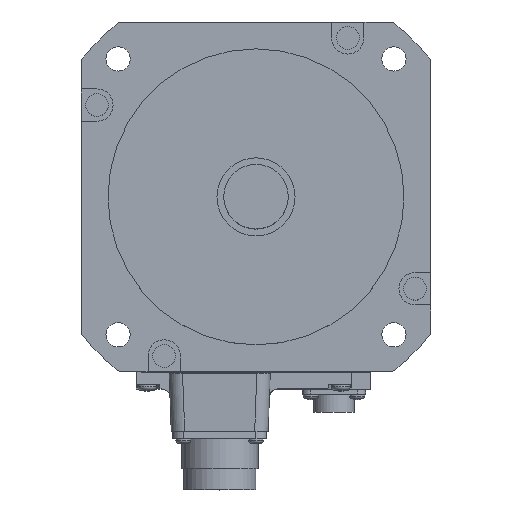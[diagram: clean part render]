
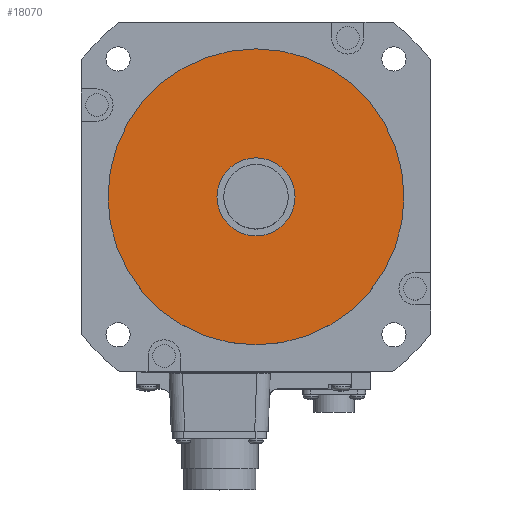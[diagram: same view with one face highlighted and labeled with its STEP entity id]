
A CAD part, top view. The second image highlights one B-rep face of the part: STEP entity #18070.
In plain terms, the highlighted planar face has unit normal (0, 0, 1).
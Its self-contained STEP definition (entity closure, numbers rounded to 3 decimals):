
#6533=CARTESIAN_POINT('',(0.,0.,3.));
#6534=DIRECTION('',(0.,0.,-1.));
#6535=DIRECTION('',(1.,0.,0.));
#6536=AXIS2_PLACEMENT_3D('',#6533,#6534,#6535);
#6538=CARTESIAN_POINT('',(0.,0.,3.));
#6539=DIRECTION('',(0.,0.,-1.));
#6540=DIRECTION('',(-1.,0.,0.));
#6541=AXIS2_PLACEMENT_3D('',#6538,#6539,#6540);
#6543=CARTESIAN_POINT('',(0.,0.,3.));
#6544=DIRECTION('',(0.,0.,1.));
#6545=DIRECTION('',(1.,0.,0.));
#6546=AXIS2_PLACEMENT_3D('',#6543,#6544,#6545);
#6548=CARTESIAN_POINT('',(0.,0.,3.));
#6549=DIRECTION('',(0.,0.,1.));
#6550=DIRECTION('',(-1.,0.,0.));
#6551=AXIS2_PLACEMENT_3D('',#6548,#6549,#6550);
#7322=CARTESIAN_POINT('',(55.,0.,3.));
#7323=VERTEX_POINT('',#7322);
#7324=CARTESIAN_POINT('',(-55.,0.,3.));
#7325=VERTEX_POINT('',#7324);
#8531=CARTESIAN_POINT('',(14.5,0.,3.));
#8532=CARTESIAN_POINT('',(-14.5,0.,3.));
#8533=VERTEX_POINT('',#8531);
#8534=VERTEX_POINT('',#8532);
#18054=CARTESIAN_POINT('',(0.,0.,3.));
#18055=DIRECTION('',(0.,0.,1.));
#18056=DIRECTION('',(1.,0.,0.));
#18057=AXIS2_PLACEMENT_3D('',#18054,#18055,#18056);
#18058=PLANE('',#18057);
#18059=ORIENTED_EDGE('',*,*,#18044,.T.);
#18061=ORIENTED_EDGE('',*,*,#18060,.T.);
#18062=EDGE_LOOP('',(#18059,#18061));
#18063=FACE_OUTER_BOUND('',#18062,.F.);
#18065=ORIENTED_EDGE('',*,*,#18064,.T.);
#18067=ORIENTED_EDGE('',*,*,#18066,.T.);
#18068=EDGE_LOOP('',(#18065,#18067));
#18069=FACE_BOUND('',#18068,.F.);
#18070=ADVANCED_FACE('',(#18063,#18069),#18058,.T.);
#6537=CIRCLE('',#6536,55.);
#6542=CIRCLE('',#6541,55.);
#6547=CIRCLE('',#6546,14.5);
#6552=CIRCLE('',#6551,14.5);
#18044=EDGE_CURVE('',#7323,#7325,#6537,.T.);
#18060=EDGE_CURVE('',#7325,#7323,#6542,.T.);
#18064=EDGE_CURVE('',#8533,#8534,#6547,.T.);
#18066=EDGE_CURVE('',#8534,#8533,#6552,.T.);
